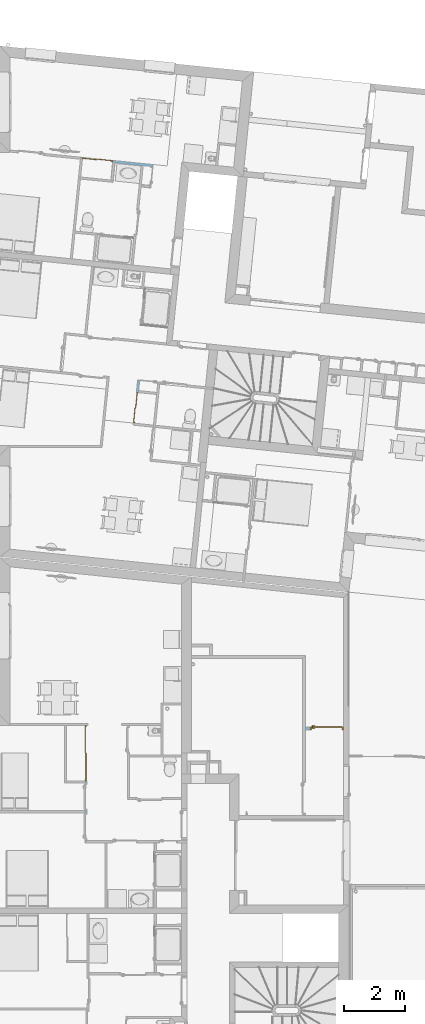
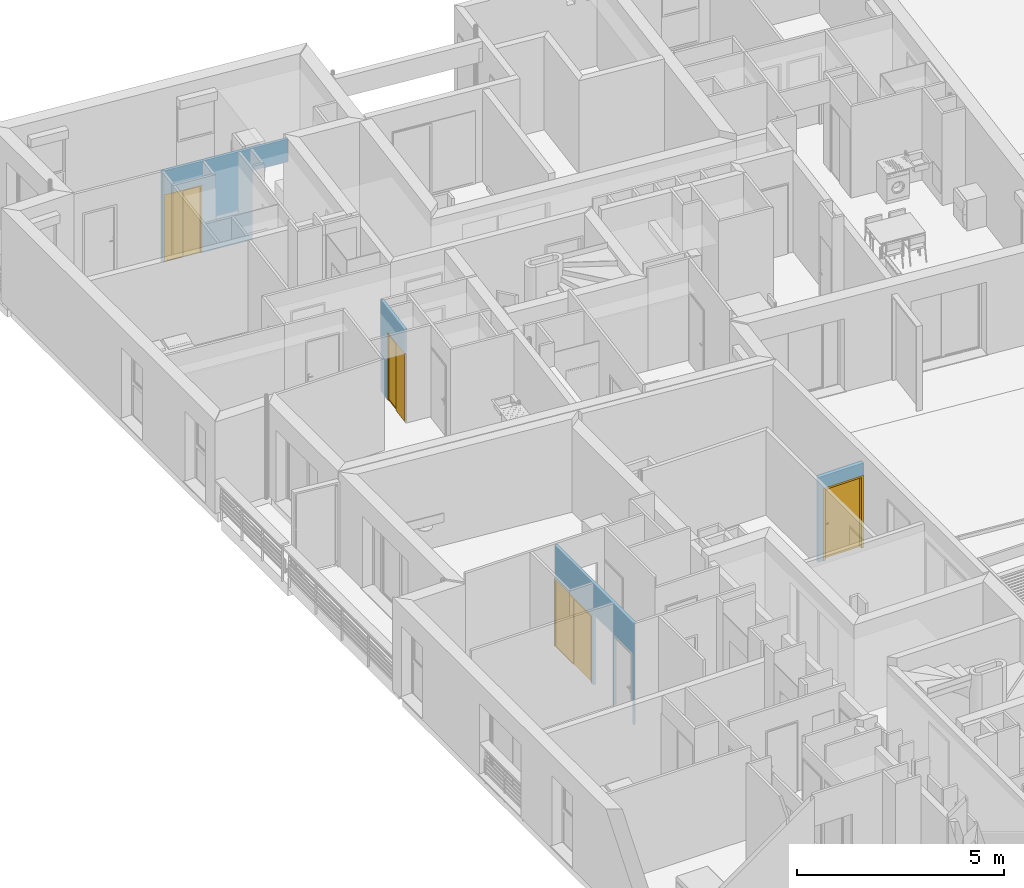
# One storey, part 110 of 171: 4 doors, 7 openings, plus 4 elements that do not belong to this part.
"""IFC2X3 building model written with IfcOpenShell, lengths in millimetres."""

from ifc_helpers import new_model, entity, si_unit, converted_unit, derived_unit, money_unit, direction, frame, origin_with_axes, origin_2d_with_axis, place, context, subcontext, project, spatial, polyline, rectangle, outline, extrude, open_shell, faceted_brep, surface_model, material, layer, layer_set, layer_usage, type_object, element, fill, save


model = new_model("IFC2X3")

# Units and contexts
model_context = context("Model", 3, precision=0.01, world=origin_with_axes(), true_north=direction((0.0, 1.0)))
body_context = subcontext(model_context, "Body", "Model", "MODEL_VIEW")
ifc_project = project(units=[si_unit("LENGTHUNIT", "METRE", prefix="MILLI"), si_unit("AREAUNIT", "SQUARE_METRE"), si_unit("VOLUMEUNIT", "CUBIC_METRE"), converted_unit("PLANEANGLEUNIT", "DEGREE", entity("IfcPlaneAngleMeasure", 0.0174532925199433), si_unit("PLANEANGLEUNIT", "RADIAN"), dimensions=[0, 0, 0, 0, 0, 0, 0]), money_unit("USD"), converted_unit("TIMEUNIT", "Year", entity("IfcTimeMeasure", 31557600.0), si_unit("TIMEUNIT", "SECOND"), dimensions=[0, 0, 1, 0, 0, 0, 0]), si_unit("MASSUNIT", "GRAM", prefix="KILO"), si_unit("THERMODYNAMICTEMPERATUREUNIT", "DEGREE_CELSIUS"), si_unit("LUMINOUSINTENSITYUNIT", "LUMEN"), si_unit("ENERGYUNIT", "JOULE", prefix="MEGA"), derived_unit("THERMALCONDUCTANCEUNIT", [(si_unit("POWERUNIT", "WATT"), 1), (si_unit("LENGTHUNIT", "METRE"), -1), (si_unit("THERMODYNAMICTEMPERATUREUNIT", "KELVIN"), -1)]), derived_unit("SPECIFICHEATCAPACITYUNIT", [(si_unit("ENERGYUNIT", "JOULE"), 1), (si_unit("MASSUNIT", "GRAM", prefix="KILO"), -1), (si_unit("THERMODYNAMICTEMPERATUREUNIT", "KELVIN"), -1)]), derived_unit("MASSDENSITYUNIT", [(si_unit("MASSUNIT", "GRAM", prefix="KILO"), 1), (si_unit("VOLUMEUNIT", "CUBIC_METRE"), -1)])], contexts=[model_context])

# Site, building, storey
site_placement = place(None, origin_with_axes())
site = spatial("IfcSite", under=ifc_project, at=site_placement, Name="Site", CompositionType="ELEMENT")
building_placement = place(site_placement, origin_with_axes())
building = spatial("IfcBuilding", under=site, at=building_placement, Name="Bâtiment", CompositionType="ELEMENT")
storey_placement = place(building_placement, frame((0.0, 0.0, 3000.0), z_axis=(0.0, 0.0, 1.0), x_axis=(1.0, 0.0, 0.0)))
storey = spatial("IfcBuildingStorey", under=building, at=storey_placement, Name="rdc", CompositionType="ELEMENT", Elevation=3000.0)

# Wall, opening, door
ifc_material_1 = material(Name="Brique 1 268964100")
ifc_layer_1 = layer(ifc_material_1, 100.0, ventilated="UNKNOWN")
ifc_layer_set_1 = layer_set([ifc_layer_1], Name="Cloison 100 gaine")
ifc_layer_usage_1 = layer_usage(ifc_layer_set_1, "AXIS2", "POSITIVE", 0.0)
wall_type_1 = type_object("IfcWallType", Name="Cloison 100 gaine 100", PredefinedType="NOTDEFINED")
wall_1_placement = place(storey_placement, frame((2228223.476037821, -626562.99755707, 0.0), z_axis=(0.0, 0.0, 1.0), x_axis=(1.0, 0.0, 0.0)))
wall_1 = element("IfcWallStandardCase", 1, at=wall_1_placement, inside=storey, type_object=wall_type_1, material=ifc_layer_usage_1, Name="Mur-133", context=body_context, shape_type="SweptSolid", body=[
    extrude(outline(polyline([(0.0, 0.0), (1250.000000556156, 0.0), (1250.00000057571, 100.0000000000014), (0.0, 100.0000000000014), (0.0, 0.0)])), origin_with_axes(), (0.0, 0.0, 1.0), 2500.0),
])
opening_1_placement = place(wall_1_placement, frame((695.0000004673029, 0.0, 0.0), z_axis=(0.0, 0.0, 1.0), x_axis=(1.0, 0.0, 0.0)))
opening_1 = element("IfcOpeningElement", 2, at=opening_1_placement, cuts=wall_1, Name="Por-301", context=body_context, shape_type="SweptSolid", body=[
    extrude(rectangle(XDim=1109.999997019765, YDim=2140.0, at=origin_2d_with_axis()), frame((-1.490093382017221e-06, -100.0000000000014, 1070.0), z_axis=(0.0, 1.0, 0.0), x_axis=(1.0, 0.0, 0.0)), (0.0, 0.0, 1.0), 200.0),
])
door_style_1 = type_object("IfcDoorStyle", Name="Porte_1v", ConstructionType="NOTDEFINED", OperationType="NOTDEFINED", ParameterTakesPrecedence=False, Sizeable=False)
door_1_placement = place(opening_1_placement, frame((-514.9999999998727, 0.0, 0.0), z_axis=(0.0, 0.0, 1.0), x_axis=(1.0, 0.0, 0.0)))
door_1 = element("IfcDoor", 3, at=door_1_placement, inside=storey, type_object=door_style_1, Name="Por-301", OverallHeight=2100.0, OverallWidth=1030.0, context=body_context, shape_type="Brep", body=[
    faceted_brep([(1069.999999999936, 100.0000000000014, 0.0), (1029.999999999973, 100.0000000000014, 0.0), (1029.999999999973, 100.0000000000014, 2100.0), (0.0, 100.0000000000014, 2100.0), (0.0, 100.0000000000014, 0.0), (-39.99999999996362, 100.0000000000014, 0.0), (-39.99999999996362, 100.0000000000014, 2140.0), (1069.999999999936, 100.0000000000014, 2140.0), (1069.999999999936, 0.0, 0.0), (1014.999999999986, 0.0, 0.0), (1014.999999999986, 85.00000000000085, 0.0), (1029.999999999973, 85.00000000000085, 0.0), (1029.999999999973, 85.00000000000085, 2100.0), (0.0, 85.00000000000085, 2100.0), (0.0, 85.00000000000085, 0.0), (14.99999999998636, 85.00000000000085, 0.0), (14.99999999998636, 0.0, 0.0), (-39.99999999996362, 0.0, 0.0), (-39.99999999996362, 0.0, 2140.0), (1069.999999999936, 0.0, 2140.0), (14.99999999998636, 0.0, 2085.0), (1014.999999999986, 0.0, 2085.0), (1014.999999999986, 85.00000000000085, 2085.0), (14.99999999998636, 85.00000000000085, 2085.0)], [[[0, 1, 2, 3, 4, 5, 6, 7]], [[0, 8, 9, 10, 11, 1]], [[1, 11, 12, 2]], [[2, 12, 13, 3]], [[3, 13, 14, 4]], [[5, 4, 14, 15, 16, 17]], [[18, 6, 5, 17]], [[19, 7, 6, 18]], [[8, 0, 7, 19]], [[9, 8, 19, 18, 17, 16, 20, 21]], [[10, 9, 21, 22]], [[11, 10, 22, 23, 15, 14, 13, 12]], [[23, 20, 16, 15]], [[22, 21, 20, 23]]]),
    faceted_brep([(64.99999999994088, 85.00000000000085, 899.9999999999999), (24.99999999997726, 85.00000000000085, 899.9999999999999), (24.99999999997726, 85.00000000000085, 1100.0), (64.99999999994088, 85.00000000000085, 1100.0), (64.99999999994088, 75.00000000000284, 899.9999999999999), (24.99999999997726, 75.00000000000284, 899.9999999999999), (24.99999999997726, 75.00000000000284, 1100.0), (64.99999999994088, 75.00000000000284, 1100.0)], [[[0, 1, 2, 3]], [[1, 0, 4, 5]], [[2, 1, 5, 6]], [[3, 2, 6, 7]], [[0, 3, 7, 4]], [[5, 4, 7, 6]]]),
    faceted_brep([(134.9999999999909, 75.00000000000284, 999.9999999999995), (34.99999999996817, 75.00000000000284, 999.9999999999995), (34.99999999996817, 75.00000000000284, 1020.0), (134.9999999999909, 75.00000000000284, 1020.0), (134.9999999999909, 54.99999999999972, 999.9999999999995), (34.99999999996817, 54.99999999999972, 999.9999999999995), (34.99999999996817, 54.99999999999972, 1020.0), (134.9999999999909, 54.99999999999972, 1020.0)], [[[0, 1, 2, 3]], [[1, 0, 4, 5]], [[2, 1, 5, 6]], [[3, 2, 6, 7]], [[0, 3, 7, 4]], [[5, 4, 7, 6]]]),
    faceted_brep([(64.99999999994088, 134.999999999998, 899.9999999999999), (24.99999999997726, 134.999999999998, 899.9999999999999), (24.99999999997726, 134.999999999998, 1100.0), (64.99999999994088, 134.999999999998, 1100.0), (64.99999999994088, 125.0, 899.9999999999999), (24.99999999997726, 125.0, 899.9999999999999), (24.99999999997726, 125.0, 1100.0), (64.99999999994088, 125.0, 1100.0)], [[[0, 1, 2, 3]], [[1, 0, 4, 5]], [[2, 1, 5, 6]], [[3, 2, 6, 7]], [[0, 3, 7, 4]], [[5, 4, 7, 6]]]),
    faceted_brep([(134.9999999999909, 155.0000000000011, 999.9999999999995), (34.99999999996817, 155.0000000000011, 999.9999999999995), (34.99999999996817, 155.0000000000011, 1020.0), (134.9999999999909, 155.0000000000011, 1020.0), (134.9999999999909, 134.999999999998, 999.9999999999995), (34.99999999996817, 134.999999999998, 999.9999999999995), (34.99999999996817, 134.999999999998, 1020.0), (134.9999999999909, 134.999999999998, 1020.0)], [[[0, 1, 2, 3]], [[1, 0, 4, 5]], [[2, 1, 5, 6]], [[3, 2, 6, 7]], [[0, 3, 7, 4]], [[5, 4, 7, 6]]]),
    faceted_brep([(0.0, 125.0, 0.0), (1029.999999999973, 125.0, 0.0), (1029.999999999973, 85.00000000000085, 0.0), (0.0, 85.00000000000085, 0.0), (0.0, 125.0, 2100.0), (1029.999999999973, 125.0, 2100.0), (1029.999999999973, 85.00000000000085, 2100.0), (0.0, 85.00000000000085, 2100.0)], [[[0, 1, 2, 3]], [[0, 4, 5, 1]], [[1, 5, 6, 2]], [[3, 2, 6, 7]], [[4, 0, 3, 7]], [[5, 4, 7, 6]]]),
])
fill(opening_1, door_1)

ifc_material_2 = material(Name="Hachure solide 268963992")
ifc_layer_2 = layer(ifc_material_2, 70.0, ventilated="UNKNOWN")
ifc_layer_set_2 = layer_set([ifc_layer_2], Name="Cloison 70 0826278243")
ifc_layer_usage_2 = layer_usage(ifc_layer_set_2, "AXIS2", "POSITIVE", -70.0)
wall_type_2 = type_object("IfcWallType", Name="Cloison 70 0826278243 70", PredefinedType="NOTDEFINED")
wall_2_placement = place(storey_placement, frame((2222752.519479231, -615015.4801485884, 0.0), z_axis=(0.0, 0.0, 1.0), x_axis=(-0.1011032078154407, -0.9948759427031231, 0.0)))
wall_2 = element("IfcWallStandardCase", 4, at=wall_2_placement, inside=storey, type_object=wall_type_2, material=ifc_layer_usage_2, Name="Mur-149", context=body_context, shape_type="SweptSolid", body=[
    extrude(outline(polyline([(-1.003314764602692e-06, -69.99999999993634), (1408.251999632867, -69.99999999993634), (1408.251999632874, 1.13686837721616e-10), (69.99999999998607, 1.13686837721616e-10), (-1.003314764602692e-06, -69.99999999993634)])), origin_with_axes(), (0.0, 0.0, 1.0), 2700.0),
])
opening_2_placement = place(wall_2_placement, frame((926.5441917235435, 0.0, 0.0), z_axis=(0.0, 0.0, 1.0), x_axis=(1.0, 0.0, 0.0)))
opening_2 = element("IfcOpeningElement", 5, at=opening_2_placement, cuts=wall_2, Name="Por-254", context=body_context, shape_type="SweptSolid", body=[
    extrude(rectangle(XDim=1013.088383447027, YDim=2000.0, at=origin_2d_with_axis()), frame((0.0, -70.00000000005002, 1000.0), z_axis=(0.0, 1.0, 0.0), x_axis=(1.0, 0.0, 0.0)), (0.0, 0.0, -1.0), 70.0),
    extrude(rectangle(XDim=1013.088383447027, YDim=2000.0, at=origin_2d_with_axis()), frame((0.0, -69.99999999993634, 1000.0), z_axis=(0.0, -1.0, 0.0), x_axis=(1.0, 0.0, 0.0)), (0.0, 0.0, -1.0), 70.0),
])
door_style_2 = type_object("IfcDoorStyle", ConstructionType="NOTDEFINED", OperationType="NOTDEFINED", ParameterTakesPrecedence=False, Sizeable=False)
door_2_placement = place(opening_2_placement, frame((506.5441917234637, 1.13686837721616e-10, 0.0), z_axis=(0.0, 0.0, 1.0), x_axis=(-1.0, 0.0, 0.0)))
door_2 = element("IfcDoor", 6, at=door_2_placement, inside=storey, type_object=door_style_2, Name="Por-254", OverallHeight=2000.0, OverallWidth=1013.09, context=body_context, shape_type="SurfaceModel", body=[
    faceted_brep([(0.0, 70.00000000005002, 0.0), (0.0, 70.00000000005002, 2000.0), (1013.088383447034, 70.00000000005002, 2000.0), (1013.088383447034, 70.00000000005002, 0.0), (973.0883834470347, 69.99999999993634, 0.0), (973.0883834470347, 69.99999999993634, 1960.0), (39.99999999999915, 70.00000000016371, 1960.0), (39.99999999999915, 70.00000000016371, 0.0), (0.0, 20.0000000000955, 0.0), (0.0, 20.0000000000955, 2000.0), (1013.088383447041, 19.99999999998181, 2000.0), (1013.088383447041, 19.99999999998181, 0.0), (973.0883834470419, 20.0000000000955, 0.0), (973.0883834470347, 60.0000000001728, 0.0), (973.0883834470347, 60.0000000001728, 1960.0), (40.00000000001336, 60.00000000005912, 1960.0), (40.00000000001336, 60.00000000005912, 0.0), (39.99999999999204, 20.0000000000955, 0.0), (39.99999999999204, 20.0000000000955, 1960.0), (973.0883834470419, 20.0000000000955, 1960.0)], [[[0, 1, 2, 3, 4, 5, 6, 7]], [[8, 9, 1, 0]], [[9, 10, 2, 1]], [[10, 11, 3, 2]], [[3, 11, 12, 13, 4]], [[5, 4, 13, 14]], [[6, 5, 14, 15]], [[7, 6, 15, 16]], [[0, 7, 16, 17, 8]], [[17, 18, 19, 12, 11, 10, 9, 8]], [[14, 13, 12, 19]], [[15, 14, 19, 18]], [[16, 15, 18, 17]]]),
    faceted_brep([(973.0883834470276, 50.00000000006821, 0.0), (973.0883834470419, 29.99999999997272, 0.0), (506.5441917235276, 30.0000000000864, 0.0), (506.5441917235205, 50.0000000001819, 0.0), (973.0883834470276, 50.00000000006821, 1960.0), (973.0883834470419, 29.99999999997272, 1960.0), (506.5441917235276, 30.0000000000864, 1960.0), (953.0883834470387, 30.0000000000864, 20.00000000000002), (526.5441917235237, 30.0000000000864, 20.00000000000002), (526.5441917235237, 30.0000000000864, 1940.0), (953.0883834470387, 30.0000000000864, 1940.0), (506.5441917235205, 50.0000000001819, 1960.0), (953.0883834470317, 50.00000000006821, 20.00000000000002), (953.0883834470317, 50.00000000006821, 1940.0), (526.5441917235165, 50.00000000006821, 1940.0), (526.5441917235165, 50.00000000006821, 20.00000000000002)], [[[0, 1, 2, 3]], [[4, 5, 1, 0]], [[1, 5, 6, 2], [7, 8, 9, 10]], [[3, 2, 6, 11]], [[0, 3, 11, 4], [12, 13, 14, 15]], [[11, 6, 5, 4]], [[15, 8, 7, 12]], [[14, 9, 8, 15]], [[13, 10, 9, 14]], [[12, 7, 10, 13]]]),
    surface_model("IfcShellBasedSurfaceModel", [(953.0883834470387, 40.00000000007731, 20.00000000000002), (953.0883834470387, 40.00000000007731, 1940.0), (526.5441917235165, 40.00000000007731, 1940.0), (526.5441917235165, 40.00000000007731, 20.00000000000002)], [open_shell([[[0, 1, 2, 3]]])]),
    faceted_brep([(511.5441917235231, 70.00000000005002, 0.0), (511.5441917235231, 50.00000000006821, 0.0), (39.99999999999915, 49.99999999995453, 0.0), (39.99999999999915, 70.00000000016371, 0.0), (511.5441917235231, 70.00000000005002, 1960.0), (511.5441917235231, 50.00000000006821, 1960.0), (39.99999999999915, 49.99999999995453, 1960.0), (39.99999999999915, 70.00000000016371, 1960.0)], [[[0, 1, 2, 3]], [[4, 5, 1, 0]], [[1, 5, 6, 2]], [[3, 2, 6, 7]], [[0, 3, 7, 4]], [[7, 6, 5, 4]]]),
])
fill(opening_2, door_2)

# Wall, openings, door
ifc_layer_usage_3 = layer_usage(ifc_layer_set_2, "AXIS2", "POSITIVE", -70.0)
wall_3_placement = place(storey_placement, frame((2220799.415976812, -607663.1592158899, 0.0), z_axis=(0.0, 0.0, 1.0), x_axis=(0.9948759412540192, -0.1011032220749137, 0.0)))
wall_3 = element("IfcWallStandardCase", 7, at=wall_3_placement, inside=storey, type_object=wall_type_2, material=ifc_layer_usage_3, Name="Mur-149", context=body_context, shape_type="SweptSolid", body=[
    extrude(outline(polyline([(70.00761785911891, -70.00000000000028), (3339.219374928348, -70.00000000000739), (3339.219374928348, 0.0), (-2.273736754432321e-10, 0.0), (70.00761785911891, -70.00000000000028)])), origin_with_axes(), (0.0, 0.0, 1.0), 2700.0),
])
opening_3_placement = place(wall_3_placement, frame((2872.832599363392, 0.0, 0.0), z_axis=(0.0, 0.0, 1.0), x_axis=(1.0, 0.0, 0.0)))
element("IfcOpeningElement", 8, at=opening_3_placement, cuts=wall_3, Name="Por-287", context=body_context, shape_type="SweptSolid", body=[
    extrude(rectangle(XDim=932.773551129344, YDim=2040.0, at=origin_2d_with_axis()), frame((0.0, 0.0, 1020.0), z_axis=(0.0, -1.0, 0.0), x_axis=(1.0, 0.0, 0.0)), (0.0, 0.0, -1.0), 70.0),
    extrude(rectangle(XDim=932.773551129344, YDim=2040.0, at=origin_2d_with_axis()), frame((0.0, 0.0, 1020.0), z_axis=(0.0, 1.0, 0.0), x_axis=(1.0, 0.0, 0.0)), (0.0, 0.0, -1.0), 70.0),
])
opening_4_placement = place(wall_3_placement, frame((573.4097265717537, 0.0, 0.0), z_axis=(0.0, 0.0, 1.0), x_axis=(1.0, 0.0, 0.0)))
opening_4 = element("IfcOpeningElement", 9, at=opening_4_placement, cuts=wall_3, Name="Por-322", context=body_context, shape_type="SweptSolid", body=[
    extrude(rectangle(XDim=1006.804217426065, YDim=2000.0, at=origin_2d_with_axis()), frame((0.0, 0.0, 1000.0), z_axis=(0.0, -1.0, 0.0), x_axis=(1.0, 0.0, 0.0)), (0.0, 0.0, -1.0), 70.0),
    extrude(rectangle(XDim=1006.804217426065, YDim=2000.0, at=origin_2d_with_axis()), frame((0.0, 0.0, 1000.0), z_axis=(0.0, 1.0, 0.0), x_axis=(1.0, 0.0, 0.0)), (0.0, 0.0, -1.0), 70.0),
])
door_3_placement = place(opening_4_placement, frame((-503.4021087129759, 0.0, 0.0), z_axis=(0.0, 0.0, 1.0), x_axis=(1.0, 0.0, 0.0)))
door_3 = element("IfcDoor", 10, at=door_3_placement, inside=storey, type_object=door_style_2, Name="Por-322", OverallHeight=2000.0, OverallWidth=1006.8, context=body_context, shape_type="SurfaceModel", body=[
    faceted_brep([(1006.804217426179, 0.0, 0.0), (966.8042174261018, 0.0, 0.0), (966.8042174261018, 0.0, 1960.0), (39.99999999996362, 0.0, 1960.0), (39.99999999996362, 0.0, 0.0), (0.0, 0.0, 0.0), (0.0, 0.0, 2000.0), (1006.804217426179, 0.0, 2000.0), (1006.804217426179, -50.00000000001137, 0.0), (966.8042174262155, -50.00000000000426, 0.0), (966.8042174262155, -9.99999999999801, 0.0), (966.8042174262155, -9.99999999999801, 1960.0), (39.99999999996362, -9.99999999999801, 1960.0), (39.99999999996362, -9.99999999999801, 0.0), (39.99999999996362, -50.00000000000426, 0.0), (0.0, -50.00000000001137, 0.0), (0.0, -50.00000000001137, 2000.0), (1006.804217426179, -50.00000000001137, 2000.0), (39.99999999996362, -50.00000000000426, 1960.0), (966.8042174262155, -50.00000000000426, 1960.0)], [[[0, 1, 2, 3, 4, 5, 6, 7]], [[0, 8, 9, 10, 1]], [[1, 10, 11, 2]], [[2, 11, 12, 3]], [[3, 12, 13, 4]], [[5, 4, 13, 14, 15]], [[16, 6, 5, 15]], [[17, 7, 6, 16]], [[8, 0, 7, 17]], [[9, 8, 17, 16, 15, 14, 18, 19]], [[10, 9, 19, 11]], [[11, 19, 18, 12]], [[12, 18, 14, 13]]]),
    faceted_brep([(40.00000000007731, -20.00000000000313, 0.0), (503.4021087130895, -20.00000000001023, 0.0), (503.4021087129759, -40.00000000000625, 0.0), (39.99999999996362, -40.00000000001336, 0.0), (40.00000000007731, -20.00000000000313, 1960.0), (503.4021087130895, -20.00000000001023, 1960.0), (60.00000000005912, -20.00000000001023, 20.00000000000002), (483.4021087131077, -20.00000000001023, 20.00000000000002), (483.4021087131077, -20.00000000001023, 1940.0), (60.00000000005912, -20.00000000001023, 1940.0), (503.4021087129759, -40.00000000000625, 1960.0), (39.99999999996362, -40.00000000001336, 1960.0), (59.99999999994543, -39.99999999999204, 20.00000000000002), (59.99999999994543, -39.99999999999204, 1940.0), (483.4021087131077, -39.99999999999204, 1940.0), (483.4021087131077, -39.99999999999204, 20.00000000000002)], [[[0, 1, 2, 3]], [[0, 4, 5, 1], [6, 7, 8, 9]], [[1, 5, 10, 2]], [[3, 2, 10, 11], [12, 13, 14, 15]], [[4, 0, 3, 11]], [[5, 4, 11, 10]], [[7, 6, 12, 15]], [[8, 7, 15, 14]], [[9, 8, 14, 13]], [[6, 9, 13, 12]]]),
    surface_model("IfcShellBasedSurfaceModel", [(59.99999999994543, -30.00000000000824, 20.00000000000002), (483.4021087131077, -30.00000000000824, 20.00000000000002), (483.4021087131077, -30.00000000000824, 1940.0), (59.99999999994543, -30.00000000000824, 1940.0)], [open_shell([[[0, 1, 2, 3]]])]),
    faceted_brep([(498.4021087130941, 0.0, 0.0), (966.8042174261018, 0.0, 0.0), (966.8042174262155, -20.00000000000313, 0.0), (498.4021087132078, -19.99999999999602, 0.0), (498.4021087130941, 0.0, 1960.0), (966.8042174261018, 0.0, 1960.0), (966.8042174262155, -20.00000000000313, 1960.0), (498.4021087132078, -19.99999999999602, 1960.0)], [[[0, 1, 2, 3]], [[0, 4, 5, 1]], [[1, 5, 6, 2]], [[3, 2, 6, 7]], [[4, 0, 3, 7]], [[5, 4, 7, 6]]]),
])
fill(opening_4, door_3)

ifc_layer_usage_4 = layer_usage(ifc_layer_set_2, "AXIS2", "POSITIVE", -70.0)
wall_4_placement = place(storey_placement, frame((2220940.801403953, -630212.921896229, 0.0), z_axis=(0.0, 0.0, 1.0), x_axis=(9.654924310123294e-08, 0.9999999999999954, 0.0)))
wall_4 = element("IfcWallStandardCase", 11, at=wall_4_placement, inside=storey, type_object=wall_type_2, material=ifc_layer_usage_4, Name="Mur-149", context=body_context, shape_type="SweptSolid", body=[
    extrude(outline(polyline([(6.758448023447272e-06, -70.00000000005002), (3761.707347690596, -70.00000000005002), (3761.707347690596, 0.0), (-70.00000000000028, 0.0), (6.758448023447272e-06, -70.00000000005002)])), origin_with_axes(), (0.0, 0.0, 1.0), 3000.0),
])
opening_5_placement = place(wall_4_placement, frame((1447.185628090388, 2.273736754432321e-10, 0.0), z_axis=(0.0, 0.0, 1.0), x_axis=(1.0, 0.0, 0.0)))
element("IfcOpeningElement", 12, at=opening_5_placement, cuts=wall_4, Name="Por-276", context=body_context, shape_type="SweptSolid", body=[
    extrude(rectangle(XDim=910.0, YDim=2080.0, at=origin_2d_with_axis()), frame((0.0, -70.00000000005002, 1040.0), z_axis=(9.654924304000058e-08, -0.9999999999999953, 0.0), x_axis=(-0.9999999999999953, -9.654924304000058e-08, 0.0)), (0.0, 0.0, -1.0), 140.0),
])
opening_6_placement = place(wall_4_placement, frame((467.1856280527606, 2.273736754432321e-10, 0.0), z_axis=(0.0, 0.0, 1.0), x_axis=(1.0, 0.0, 0.0)))
element("IfcOpeningElement", 13, at=opening_6_placement, cuts=wall_4, Name="Por-275", context=body_context, shape_type="SweptSolid", body=[
    extrude(rectangle(XDim=910.0, YDim=2080.0, at=origin_2d_with_axis()), frame((0.0, -70.00000000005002, 1040.0), z_axis=(-9.654924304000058e-08, 0.9999999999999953, 0.0), x_axis=(0.9999999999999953, 9.654924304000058e-08, 0.0)), (0.0, 0.0, 1.0), 140.0),
])
opening_7_placement = place(wall_4_placement, frame((2886.946422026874, 2.273736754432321e-10, 0.0), z_axis=(0.0, 0.0, 1.0), x_axis=(1.0, 0.0, 0.0)))
opening_7 = element("IfcOpeningElement", 14, at=opening_7_placement, cuts=wall_4, Name="Por-321", context=body_context, shape_type="SweptSolid", body=[
    extrude(rectangle(XDim=1829.521851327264, YDim=2000.0, at=origin_2d_with_axis()), frame((-6.758462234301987e-06, 0.0002787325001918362, 1000.0), z_axis=(9.654924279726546e-08, -0.9999999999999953, 0.0), x_axis=(0.9999999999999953, 9.654924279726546e-08, 0.0)), (0.0, 0.0, -1.0), 70.0),
    extrude(rectangle(XDim=1829.521851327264, YDim=2000.0, at=origin_2d_with_axis()), frame((-6.758462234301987e-06, 0.0002787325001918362, 1000.0), z_axis=(-9.654924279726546e-08, 0.9999999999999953, 0.0), x_axis=(0.9999999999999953, 9.654924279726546e-08, 0.0)), (0.0, 0.0, -1.0), 70.0),
])
door_4_placement = place(opening_7_placement, frame((914.7609256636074, 1.13686837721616e-10, 0.0), z_axis=(0.0, 0.0, 1.0), x_axis=(-1.0, 0.0, 0.0)))
door_4 = element("IfcDoor", 15, at=door_4_placement, inside=storey, type_object=door_style_2, Name="Por-321", OverallHeight=2000.0, OverallWidth=1829.52, context=body_context, shape_type="SurfaceModel", body=[
    faceted_brep([(1829.521853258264, 49.99980958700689, 0.0), (1789.521853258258, 49.99980572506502, 0.0), (1789.521853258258, 49.99980572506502, 1960.0), (40.00000193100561, 49.99963681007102, 1960.0), (40.00000193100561, 49.99963681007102, 0.0), (1.930999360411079e-06, 49.99963294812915, 0.0), (1.930999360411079e-06, 49.99963294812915, 2000.0), (1829.521853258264, 49.99980958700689, 2000.0), (1829.521858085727, -0.0001904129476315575, 0.0), (1789.52185808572, -0.0001942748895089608, 0.0), (1789.52185422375, 39.99980572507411, 0.0), (1789.52185422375, 39.99980572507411, 1960.0), (40.00000289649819, 39.99963681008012, 1960.0), (40.00000289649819, 39.99963681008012, 0.0), (40.00000675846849, -0.0003631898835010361, 0.0), (6.758462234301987e-06, -0.0003670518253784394, 0.0), (6.758462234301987e-06, -0.0003670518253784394, 2000.0), (1829.521858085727, -0.0001904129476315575, 2000.0), (40.00000675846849, -0.0003631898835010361, 1960.0), (1789.52185808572, -0.0001942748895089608, 1960.0)], [[[0, 1, 2, 3, 4, 5, 6, 7]], [[0, 8, 9, 10, 1]], [[1, 10, 11, 2]], [[2, 11, 12, 3]], [[3, 12, 13, 4]], [[5, 4, 13, 14, 15]], [[16, 6, 5, 15]], [[17, 7, 6, 16]], [[8, 0, 7, 17]], [[9, 8, 17, 16, 15, 14, 18, 19]], [[10, 9, 19, 11]], [[11, 19, 18, 12]], [[12, 18, 14, 13]]]),
    faceted_brep([(40.00000386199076, 29.99963681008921, 0.0), (914.7609295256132, 29.99972126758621, 0.0), (914.7609314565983, 9.9997212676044, 0.0), (40.00000579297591, 9.999636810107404, 0.0), (40.00000386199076, 29.99963681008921, 1960.0), (914.7609295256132, 29.99972126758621, 1960.0), (60.00000386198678, 29.99963874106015, 20.00000000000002), (894.76092952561, 29.99971933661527, 20.00000000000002), (894.76092952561, 29.99971933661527, 1940.0), (60.00000386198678, 29.99963874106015, 1940.0), (914.7609314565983, 9.9997212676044, 1960.0), (40.00000579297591, 9.999636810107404, 1960.0), (60.00000579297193, 9.999638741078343, 20.00000000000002), (60.00000579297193, 9.999638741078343, 1940.0), (894.7609314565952, 9.999719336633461, 1940.0), (894.7609314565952, 9.999719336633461, 20.00000000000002)], [[[0, 1, 2, 3]], [[0, 4, 5, 1], [6, 7, 8, 9]], [[1, 5, 10, 2]], [[3, 2, 10, 11], [12, 13, 14, 15]], [[4, 0, 3, 11]], [[5, 4, 11, 10]], [[7, 6, 12, 15]], [[8, 7, 15, 14]], [[9, 8, 14, 13]], [[6, 9, 13, 12]]]),
    surface_model("IfcShellBasedSurfaceModel", [(60.00000482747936, 19.99963874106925, 20.00000000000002), (894.7609304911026, 19.99971933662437, 20.00000000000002), (894.7609304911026, 19.99971933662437, 1940.0), (60.00000482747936, 19.99963874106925, 1940.0)], [open_shell([[[0, 1, 2, 3]]])]),
    faceted_brep([(909.7609275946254, 49.99972078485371, 0.0), (1789.521853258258, 49.99980572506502, 0.0), (1789.521855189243, 29.99980572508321, 0.0), (909.7609295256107, 29.9997207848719, 0.0), (909.7609275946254, 49.99972078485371, 1960.0), (1789.521853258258, 49.99980572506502, 1960.0), (1789.521855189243, 29.99980572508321, 1960.0), (909.7609295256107, 29.9997207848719, 1960.0)], [[[0, 1, 2, 3]], [[0, 4, 5, 1]], [[1, 5, 6, 2]], [[3, 2, 6, 7]], [[4, 0, 3, 7]], [[5, 4, 7, 6]]]),
])
fill(opening_7, door_4)

save(model, "model.ifc")
